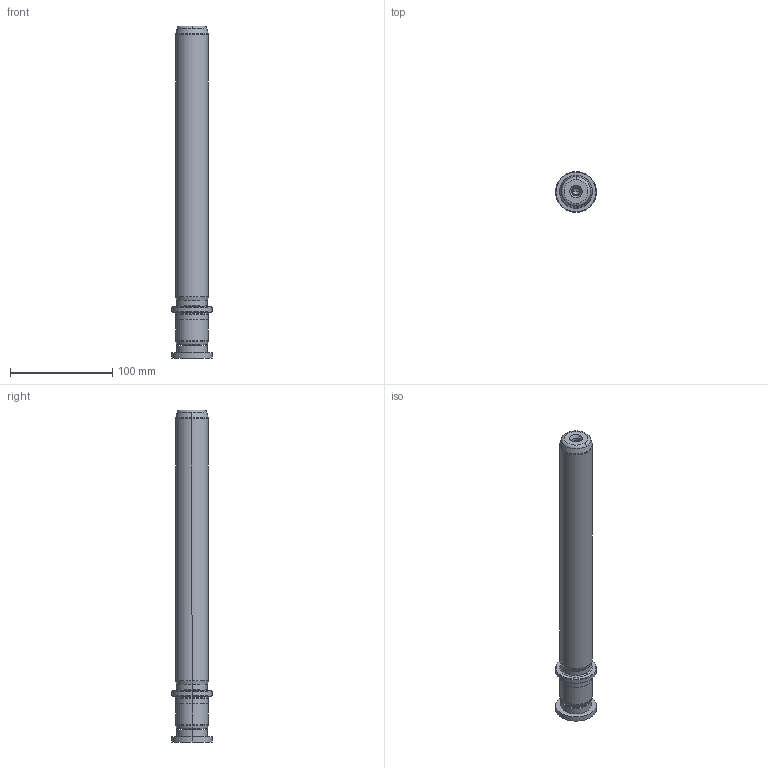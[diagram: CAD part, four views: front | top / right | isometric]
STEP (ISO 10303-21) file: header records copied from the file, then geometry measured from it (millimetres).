
FILE_DESCRIPTION((''),'2;1');
FILE_NAME('P22_032_280.stp','2009-02-03T14:03:38',(''),(''),'Mechanical Desktop 2009','Mechanical Desktop 2009',', , ');
FILE_SCHEMA(('CONFIG_CONTROL_DESIGN'));
Length unit declared in the file: millimetre
Products named in the file (2): Product; blmdl1
Assembly tree (1 placements, depth 2):
  Product
    blmdl1
Bounding box: 40 x 40 x 325 mm (x, y, z)
Volume: 260509.7 mm3; surface area: 39954.3 mm2
Topology: 3 solids, 3 shells, 99 faces, 237 edges, 149 vertices
Faces by surface type: cylinder 32, cone 28, plane 19, torus 10, bspline 10
Entity records: 3419 total; most frequent: CARTESIAN_POINT 923, DIRECTION 570, ORIENTED_EDGE 466, AXIS2_PLACEMENT_3D 246, EDGE_CURVE 233, CIRCLE 155, VERTEX_POINT 149, EDGE_LOOP 110
